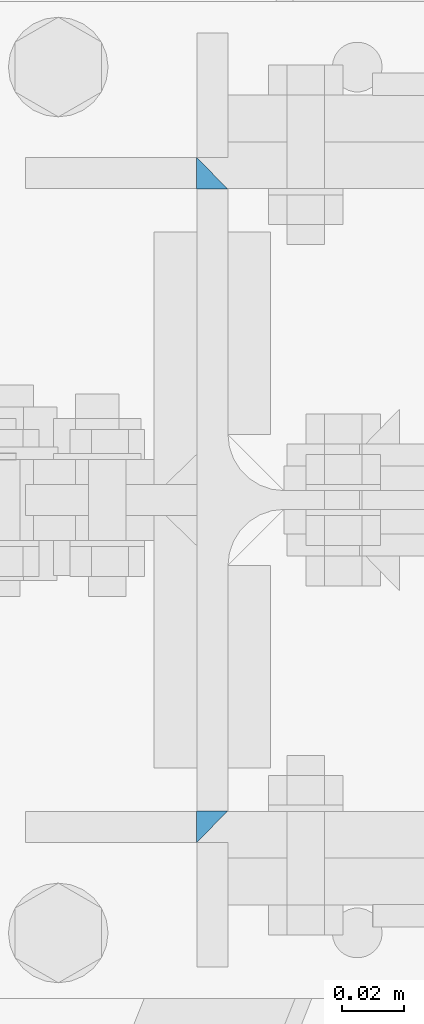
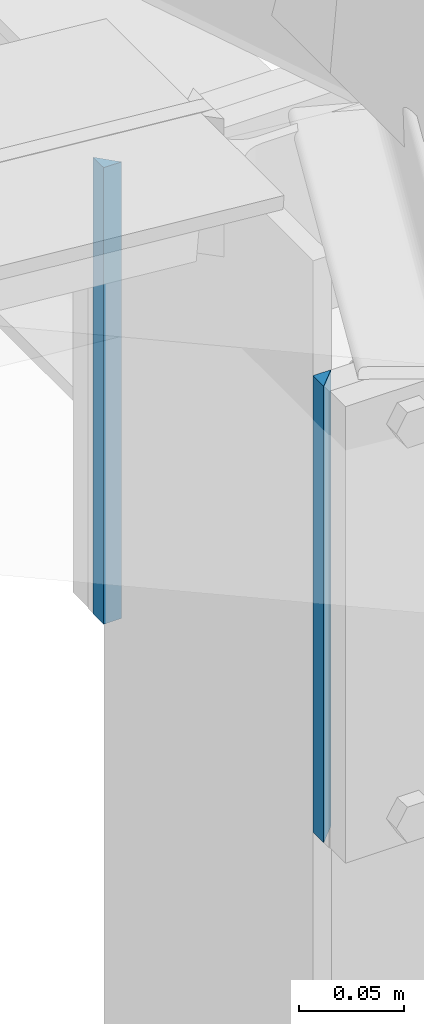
# One storey, part 43 of 251: 2 fasteners.
"""IFC4 building model written with IfcOpenShell, lengths in metres."""

from ifc_helpers import new_model, si_unit, frame, origin_with_axes, place, context, project, spatial, polyline, outline, extrude, type_object, element, save


model = new_model("IFC4")

# Units and contexts
model_context = context("Model", 3, precision=1e-05, world=origin_with_axes())
ifc_project = project(units=[si_unit("LENGTHUNIT", "METRE"), si_unit("AREAUNIT", "SQUARE_METRE"), si_unit("VOLUMEUNIT", "CUBIC_METRE"), si_unit("MASSUNIT", "GRAM", prefix="KILO"), si_unit("TIMEUNIT", "SECOND"), si_unit("PLANEANGLEUNIT", "RADIAN"), si_unit("SOLIDANGLEUNIT", "STERADIAN"), si_unit("THERMODYNAMICTEMPERATUREUNIT", "DEGREE_CELSIUS")], contexts=[model_context])

# Site, building, storey
placement_1 = place(None, origin_with_axes())
site = spatial("IfcSite", under=ifc_project, at=placement_1, Name="Italia", CompositionType="ELEMENT")
building = spatial("IfcBuilding", under=site, at=placement_1, Name="Deposito", CompositionType="ELEMENT")
storey = spatial("IfcBuildingStorey", under=building, at=placement_1, Name="Storey 0", CompositionType="ELEMENT", Elevation=0.0)

# Fasteners
fastener_type_1 = type_object("IfcFastenerType", Name="Collegamenti -064_-065 -065_-064 -065_-066 -066_-065 -066_-067 -067_-066 -067_-068 -068_-067", PredefinedType="WELD")
placement_2 = place(placement_1, origin_with_axes())
fastener_1_placement = place(placement_2, origin_with_axes())
element("IfcFastener", 1, at=fastener_1_placement, inside=storey, type_object=fastener_type_1, Name="Collegamenti -064_-065 -065_-064 -065_-066 -066_-065 -066_-067 -067_-066 -067_-068 -068_-067", context=model_context, shape_type="SweptSolid", body=[
    extrude(outline(polyline([(0.0, 0.0), (-0.0101738, 0.00986862), (0.0, 0.00986862), (0.0, 0.0)])), frame((19.9148, 14.9001, 5.66695), z_axis=(0.0, 0.0, 1.0), x_axis=(0.0, 1.0, 0.0)), (0.0, 0.0, 1.0), 0.2661),
])
fastener_type_2 = type_object("IfcFastenerType", Name="Collegamenti -064_-065 -065_-064 -065_-066 -066_-065 -066_-067 -067_-066 -067_-068 -068_-067", PredefinedType="WELD")
fastener_2_placement = place(placement_2, origin_with_axes())
element("IfcFastener", 2, at=fastener_2_placement, inside=storey, type_object=fastener_type_2, Name="Collegamenti -064_-065 -065_-064 -065_-066 -066_-065 -066_-067 -067_-066 -067_-068 -068_-067", context=model_context, shape_type="SweptSolid", body=[
    extrude(outline(polyline([(0.0, 0.0), (0.0101738, -0.00986862), (0.0, -0.00986862), (0.0, 0.0)])), frame((19.9148, 15.0999, 5.93305), z_axis=(0.0, 0.0, -1.0), x_axis=(0.0, 1.0, 0.0)), (0.0, 0.0, 1.0), 0.2661),
])

save(model, "model.ifc")
